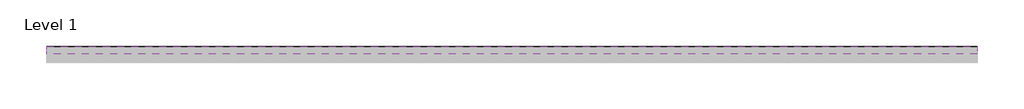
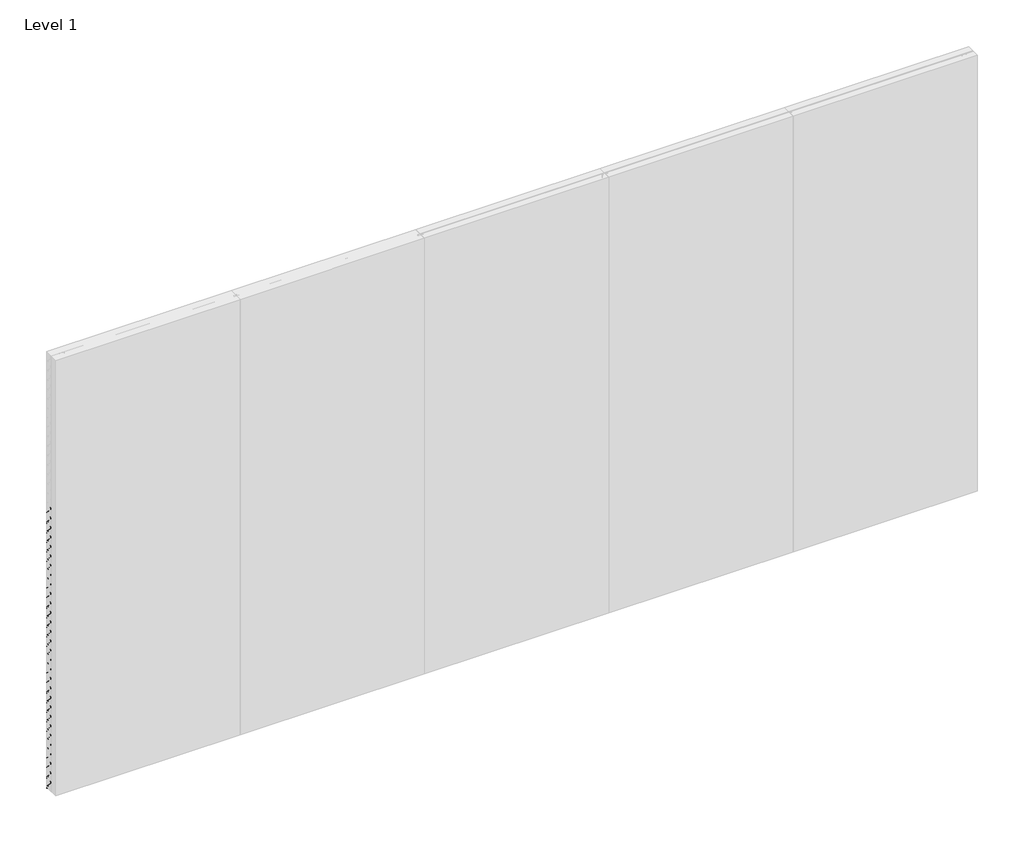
# One storey, part 7 of 7: 30 proxies.
"""IFC4 building model written with IfcOpenShell, lengths in millimetres."""

import ifcopenshell
import ifcopenshell.guid

model = None  # the IFC model being written
_history = None  # IfcOwnerHistory: only IFC2X3 demands one
_inside = {}  # id of a spatial element -> (the spatial element, [elements in it])
_under = {}  # id of a project, library or spatial element -> (it, [spatial elements below it])
_declared = {}  # id of a project -> (the project, [libraries it declares])
_typed = {}  # id of a type object -> (the type object, [elements of that type])
_made_of = {}  # id of a material, layer set ... -> (it, [elements and type objects made of it])


def new_model(schema):
    """Start an empty IFC model of exactly this schema.

    Asked for "IFC4X3", IfcOpenShell would pick the latest addendum, in which some entities
    have other attributes; the version numbers below select the first issue.
    IFC2X3 requires an IfcOwnerHistory on every rooted entity: one is made here for all.
    """
    global model, _history
    if schema == "IFC4X3":
        model = ifcopenshell.file(schema_version=(4, 3, 0, 0))
    else:
        model = ifcopenshell.file(schema=schema)
    _inside.clear()
    _under.clear()
    _declared.clear()
    _typed.clear()
    _made_of.clear()
    _history = None
    if model.schema == "IFC2X3":
        org = make("IfcOrganization", Name="unknown")
        user = make(
            "IfcPersonAndOrganization",
            ThePerson=make("IfcPerson", FamilyName="unknown"),
            TheOrganization=org,
        )
        app = make(
            "IfcApplication",
            ApplicationDeveloper=org,
            Version="unknown",
            ApplicationFullName="unknown",
            ApplicationIdentifier="unknown",
        )
        _history = make(
            "IfcOwnerHistory",
            OwningUser=user,
            OwningApplication=app,
            ChangeAction="ADDED",
            CreationDate=0,
        )
    return model


def make(cls, **values):
    """One entity of the class cls with the attributes given. An attribute that is None is left unset."""
    return model.create_entity(
        cls, **{name: value for name, value in values.items() if value is not None}
    )


def rooted(cls, **values):
    """An entity with a GlobalId (a new one), such as an element, a storey or a relation."""
    return make(cls, GlobalId=ifcopenshell.guid.new(), OwnerHistory=_history, **values)


def si_unit(unit_type, name, prefix=None):
    """IfcSIUnit, for example si_unit("LENGTHUNIT", "METRE", prefix="MILLI")."""
    return make("IfcSIUnit", UnitType=unit_type, Prefix=prefix, Name=name)


def assignment(units):
    """IfcUnitAssignment: the units of a project."""
    return None if units is None else make("IfcUnitAssignment", Units=units)


def point(xyz):
    """IfcCartesianPoint."""
    return None if xyz is None else make("IfcCartesianPoint", Coordinates=xyz)


def direction(xyz):
    """IfcDirection."""
    return None if xyz is None else make("IfcDirection", DirectionRatios=xyz)


def frame(location, z_axis=None, x_axis=None):
    """IfcAxis2Placement3D, a coordinate frame: its origin and axes. An axis left out is left unset."""
    return make(
        "IfcAxis2Placement3D",
        Location=point(location),
        Axis=direction(z_axis),
        RefDirection=direction(x_axis),
    )


def frame_2d(location, x_axis=None):
    """IfcAxis2Placement2D, a coordinate frame in the plane: its origin and x axis."""
    return make(
        "IfcAxis2Placement2D", Location=point(location), RefDirection=direction(x_axis)
    )


def origin():
    """The frame at (0, 0, 0) with its axes left unset."""
    return frame((0.0, 0.0, 0.0))


def place(relative_to, where):
    """IfcLocalPlacement: puts the frame where relative to a parent placement (None: the world)."""
    return make(
        "IfcLocalPlacement", PlacementRelTo=relative_to, RelativePlacement=where
    )


def context(
    kind, dimensions, precision=None, world=None, true_north=None, identifier=None
):
    """IfcGeometricRepresentationContext, for example the 3D "Model" context."""
    return make(
        "IfcGeometricRepresentationContext",
        ContextIdentifier=identifier,
        ContextType=kind,
        CoordinateSpaceDimension=dimensions,
        Precision=precision,
        WorldCoordinateSystem=world,
        TrueNorth=true_north,
    )


def project(units=None, contexts=None):
    """IfcProject with its units and contexts."""
    return rooted(
        "IfcProject",
        Name="project",
        RepresentationContexts=contexts,
        UnitsInContext=assignment(units),
    )


def spatial(cls, under=None, at=None, **own):
    """A site, building, storey or space (cls), placed at a placement, below another one or the project."""
    s = rooted(cls, ObjectPlacement=at, **own)
    if under is not None:
        _under.setdefault(under.id(), (under, []))[1].append(s)
    return s


def polyline(points):
    """IfcPolyline through the points."""
    return make("IfcPolyline", Points=[point(p) for p in points])


def circle_curve(where, radius):
    """IfcCircle in the frame where."""
    return make("IfcCircle", Position=where, Radius=radius)


def trimmed(basis, trim1, trim2, sense, master):
    """IfcTrimmedCurve: the piece of a basis curve between two trims."""
    return make(
        "IfcTrimmedCurve",
        BasisCurve=basis,
        Trim1=trim1,
        Trim2=trim2,
        SenseAgreement=sense,
        MasterRepresentation=master,
    )


def segment(curve, same_sense, transition):
    """IfcCompositeCurveSegment."""
    return make(
        "IfcCompositeCurveSegment",
        Transition=transition,
        SameSense=same_sense,
        ParentCurve=curve,
    )


def composite_curve(segments, self_intersect=None):
    """IfcCompositeCurve: segments joined end to end."""
    return make("IfcCompositeCurve", Segments=segments, SelfIntersect=self_intersect)


def outline(outer, holes=None, kind="AREA"):
    """IfcArbitraryClosedProfileDef: a profile drawn as a closed curve; with holes, ...WithVoids."""
    if holes is None:
        return make("IfcArbitraryClosedProfileDef", ProfileType=kind, OuterCurve=outer)
    return make(
        "IfcArbitraryProfileDefWithVoids",
        ProfileType=kind,
        OuterCurve=outer,
        InnerCurves=holes,
    )


def extrude(swept, where, along, depth):
    """IfcExtrudedAreaSolid: the profile swept, set in the frame where, extruded along a direction by depth."""
    return make(
        "IfcExtrudedAreaSolid",
        SweptArea=swept,
        Position=where,
        ExtrudedDirection=direction(along),
        Depth=depth,
    )


def shape(context_of_items, identifier, shape_type, items):
    """IfcShapeRepresentation: the items that make up one representation, for example the "Body"."""
    return make(
        "IfcShapeRepresentation",
        ContextOfItems=context_of_items,
        RepresentationIdentifier=identifier,
        RepresentationType=shape_type,
        Items=items,
    )


def made_of(thing, what):
    """Note that an element or type object is made of a material, layer set ...; save() writes the relation."""
    if what is not None:
        _made_of.setdefault(what.id(), (what, []))[1].append(thing)
    return thing


def element(
    cls,
    number,
    at=None,
    inside=None,
    cuts=None,
    type_object=None,
    material=None,
    context=None,
    identifier="Body",
    shape_type=None,
    held_by="IfcProductDefinitionShape",
    body=None,
    shapes=None,
    **own,
):
    """One element of the class cls, such as IfcWall. Its Tag is "e" and its number.

    at: its placement. inside: the storey or other place that contains it. cuts: it is an
    opening in that element (IfcRelVoidsElement). A single representation is given by context,
    identifier, shape_type and body (its items); several are given by shapes. held_by: the class
    of the entity that holds the representations. save() writes the other relations.
    """
    e = rooted(cls, Tag="e%d" % number, ObjectPlacement=at, **own)
    if body is not None:
        shapes = [shape(context, identifier, shape_type, body)]
    if shapes is not None:
        e.Representation = make(held_by, Representations=shapes)
    if inside is not None:
        _inside.setdefault(inside.id(), (inside, []))[1].append(e)
    if cuts is not None:
        rooted(
            "IfcRelVoidsElement", RelatingBuildingElement=cuts, RelatedOpeningElement=e
        )
    if type_object is not None:
        _typed.setdefault(type_object.id(), (type_object, []))[1].append(e)
    return made_of(e, material)


def aggregate(whole, parts):
    """IfcRelAggregates: a whole, such as a stair, and the parts it consists of."""
    return rooted("IfcRelAggregates", RelatingObject=whole, RelatedObjects=parts)


def save(model, path):
    """Write the relations noted so far, then the file.

    IfcRelAggregates (storeys below a building ...), IfcRelContainedInSpatialStructure (elements
    in a storey), IfcRelDefinesByType, IfcRelAssociatesMaterial and IfcRelDeclares: one each for
    every whole, place, type object, material and project.
    """
    for whole, parts in _under.values():
        aggregate(whole, parts)
    for where, things in _inside.values():
        rooted(
            "IfcRelContainedInSpatialStructure",
            RelatedElements=things,
            RelatingStructure=where,
        )
    for kind, things in _typed.values():
        rooted("IfcRelDefinesByType", RelatedObjects=things, RelatingType=kind)
    for what, things in _made_of.values():
        rooted("IfcRelAssociatesMaterial", RelatedObjects=things, RelatingMaterial=what)
    for by, libraries in _declared.values():
        rooted("IfcRelDeclares", RelatingContext=by, RelatedDefinitions=libraries)
    model.write(path)


model = new_model("IFC4")

# Units and contexts
model_context = context("Model", 3, world=origin())
ifc_project = project(units=[si_unit("LENGTHUNIT", "METRE", prefix="MILLI")], contexts=[model_context])

# Site, building, storey
site = spatial("IfcSite", under=ifc_project)
building = spatial("IfcBuilding", under=site)
storey = spatial("IfcBuildingStorey", under=building, Name="Level 1", Elevation=0.0)

# Proxies
placement = place(None, origin())
element("IfcBuildingElementProxy", 1, Name="Wall Sweeps", at=placement, inside=storey, context=model_context, shape_type="SweptSolid", body=[
    extrude(outline(composite_curve([segment(polyline([(4007.5, 1936.0025181), (4007.5, 1943.9509429), (4005.5, 1943.9509429), (4005.5, 1941.5421319), (4004.0, 1941.5421319), (4004.0, 1948.6499999), (4005.5, 1948.6499999), (4005.5, 1945.4509429), (4007.5, 1945.4509429), (4007.5, 1948.7999999), (4007.8215391, 1950.0), (4012.2999946, 1950.0), (4012.2999946, 1946.8499997), (4010.9164265, 1948.4999997), (4009.0, 1948.4999997), (4009.0, 1936.6085574), (4054.0, 1890.0096933), (4054.0, 1874.0), (4052.5, 1876.6798), (4052.5, 1879.1208496), (4051.5, 1879.1208496), (4051.5, 1880.6208496), (4052.5, 1880.6208496), (4052.5, 1889.4036539), (4038.7911893, 1903.599543), (4036.5624401, 1901.3707939), (4037.1260451, 1900.8071888)]), True, "CONTINUOUS"), segment(trimmed(circle_curve(frame_2d((4036.7724917, 1900.4536354)), 0.5), [point((4037.1260451, 1900.8071888))], [point((4036.6430822, 1899.9706725))], False, "CARTESIAN"), True, "CONTINUOUS"), segment(polyline([(4036.6430822, 1899.9706725), (4033.8022083, 1900.7318824), (4037.749043, 1904.6787171), (4007.5, 1936.0025181)]), True, "CONTINUOUS")], self_intersect=False)), frame((0.0, 0.0, 0.0), z_axis=(1.0, 0.0, 0.0), x_axis=(0.0, 1.0, 0.0)), (0.0, 0.0, 1.0), 6000.0),
])
element("IfcBuildingElementProxy", 2, Name="Wall Sweeps", at=placement, inside=storey, context=model_context, shape_type="SweptSolid", body=[
    extrude(outline(composite_curve([segment(polyline([(4007.5, 1871.0025181), (4007.5, 1878.9509429), (4005.5, 1878.9509429), (4005.5, 1876.5421319), (4004.0, 1876.5421319), (4004.0, 1883.6499999), (4005.5, 1883.6499999), (4005.5, 1880.4509429), (4007.5, 1880.4509429), (4007.5, 1883.7999999), (4007.8215391, 1885.0), (4012.2999946, 1885.0), (4012.2999946, 1881.8499997), (4010.9164265, 1883.4999997), (4009.0, 1883.4999997), (4009.0, 1871.6085574), (4054.0, 1825.0096933), (4054.0, 1809.0), (4052.5, 1811.6798), (4052.5, 1814.1208496), (4051.5, 1814.1208496), (4051.5, 1815.6208496), (4052.5, 1815.6208496), (4052.5, 1824.4036539), (4038.7911893, 1838.599543), (4036.5624401, 1836.3707939), (4037.1260451, 1835.8071888)]), True, "CONTINUOUS"), segment(trimmed(circle_curve(frame_2d((4036.7724917, 1835.4536354)), 0.5), [point((4037.1260451, 1835.8071888))], [point((4036.6430822, 1834.9706725))], False, "CARTESIAN"), True, "CONTINUOUS"), segment(polyline([(4036.6430822, 1834.9706725), (4033.8022083, 1835.7318824), (4037.749043, 1839.6787171), (4007.5, 1871.0025181)]), True, "CONTINUOUS")], self_intersect=False)), frame((0.0, 0.0, 0.0), z_axis=(1.0, 0.0, 0.0), x_axis=(0.0, 1.0, 0.0)), (0.0, 0.0, 1.0), 6000.0),
])
element("IfcBuildingElementProxy", 3, Name="Wall Sweeps", at=placement, inside=storey, context=model_context, shape_type="SweptSolid", body=[
    extrude(outline(composite_curve([segment(polyline([(4007.5, 1806.0025181), (4007.5, 1813.9509429), (4005.5, 1813.9509429), (4005.5, 1811.5421319), (4004.0, 1811.5421319), (4004.0, 1818.6499999), (4005.5, 1818.6499999), (4005.5, 1815.4509429), (4007.5, 1815.4509429), (4007.5, 1818.7999999), (4007.8215391, 1820.0), (4012.2999946, 1820.0), (4012.2999946, 1816.8499997), (4010.9164265, 1818.4999997), (4009.0, 1818.4999997), (4009.0, 1806.6085574), (4054.0, 1760.0096933), (4054.0, 1744.0), (4052.5, 1746.6798), (4052.5, 1749.1208496), (4051.5, 1749.1208496), (4051.5, 1750.6208496), (4052.5, 1750.6208496), (4052.5, 1759.4036539), (4038.7911893, 1773.599543), (4036.5624401, 1771.3707939), (4037.1260451, 1770.8071888)]), True, "CONTINUOUS"), segment(trimmed(circle_curve(frame_2d((4036.7724917, 1770.4536354)), 0.5), [point((4037.1260451, 1770.8071888))], [point((4036.6430822, 1769.9706725))], False, "CARTESIAN"), True, "CONTINUOUS"), segment(polyline([(4036.6430822, 1769.9706725), (4033.8022083, 1770.7318824), (4037.749043, 1774.6787171), (4007.5, 1806.0025181)]), True, "CONTINUOUS")], self_intersect=False)), frame((0.0, 0.0, 0.0), z_axis=(1.0, 0.0, 0.0), x_axis=(0.0, 1.0, 0.0)), (0.0, 0.0, 1.0), 6000.0),
])
element("IfcBuildingElementProxy", 4, Name="Wall Sweeps", at=placement, inside=storey, context=model_context, shape_type="SweptSolid", body=[
    extrude(outline(composite_curve([segment(polyline([(4007.5, 1741.0025181), (4007.5, 1748.9509429), (4005.5, 1748.9509429), (4005.5, 1746.5421319), (4004.0, 1746.5421319), (4004.0, 1753.6499999), (4005.5, 1753.6499999), (4005.5, 1750.4509429), (4007.5, 1750.4509429), (4007.5, 1753.7999999), (4007.8215391, 1755.0), (4012.2999946, 1755.0), (4012.2999946, 1751.8499997), (4010.9164265, 1753.4999997), (4009.0, 1753.4999997), (4009.0, 1741.6085574), (4054.0, 1695.0096933), (4054.0, 1679.0), (4052.5, 1681.6798), (4052.5, 1684.1208496), (4051.5, 1684.1208496), (4051.5, 1685.6208496), (4052.5, 1685.6208496), (4052.5, 1694.4036539), (4038.7911893, 1708.599543), (4036.5624401, 1706.3707939), (4037.1260451, 1705.8071888)]), True, "CONTINUOUS"), segment(trimmed(circle_curve(frame_2d((4036.7724917, 1705.4536354)), 0.5), [point((4037.1260451, 1705.8071888))], [point((4036.6430822, 1704.9706725))], False, "CARTESIAN"), True, "CONTINUOUS"), segment(polyline([(4036.6430822, 1704.9706725), (4033.8022083, 1705.7318824), (4037.749043, 1709.6787171), (4007.5, 1741.0025181)]), True, "CONTINUOUS")], self_intersect=False)), frame((0.0, 0.0, 0.0), z_axis=(1.0, 0.0, 0.0), x_axis=(0.0, 1.0, 0.0)), (0.0, 0.0, 1.0), 6000.0),
])
element("IfcBuildingElementProxy", 5, Name="Wall Sweeps", at=placement, inside=storey, context=model_context, shape_type="SweptSolid", body=[
    extrude(outline(composite_curve([segment(polyline([(4007.5, 1676.0025181), (4007.5, 1683.9509429), (4005.5, 1683.9509429), (4005.5, 1681.5421319), (4004.0, 1681.5421319), (4004.0, 1688.6499999), (4005.5, 1688.6499999), (4005.5, 1685.4509429), (4007.5, 1685.4509429), (4007.5, 1688.7999999), (4007.8215391, 1690.0), (4012.2999946, 1690.0), (4012.2999946, 1686.8499997), (4010.9164265, 1688.4999997), (4009.0, 1688.4999997), (4009.0, 1676.6085574), (4054.0, 1630.0096933), (4054.0, 1614.0), (4052.5, 1616.6798), (4052.5, 1619.1208496), (4051.5, 1619.1208496), (4051.5, 1620.6208496), (4052.5, 1620.6208496), (4052.5, 1629.4036539), (4038.7911893, 1643.599543), (4036.5624401, 1641.3707939), (4037.1260451, 1640.8071888)]), True, "CONTINUOUS"), segment(trimmed(circle_curve(frame_2d((4036.7724917, 1640.4536354)), 0.5), [point((4037.1260451, 1640.8071888))], [point((4036.6430822, 1639.9706725))], False, "CARTESIAN"), True, "CONTINUOUS"), segment(polyline([(4036.6430822, 1639.9706725), (4033.8022083, 1640.7318824), (4037.749043, 1644.6787171), (4007.5, 1676.0025181)]), True, "CONTINUOUS")], self_intersect=False)), frame((0.0, 0.0, 0.0), z_axis=(1.0, 0.0, 0.0), x_axis=(0.0, 1.0, 0.0)), (0.0, 0.0, 1.0), 6000.0),
])
element("IfcBuildingElementProxy", 6, Name="Wall Sweeps", at=placement, inside=storey, context=model_context, shape_type="SweptSolid", body=[
    extrude(outline(composite_curve([segment(polyline([(4007.5, 1611.0025181), (4007.5, 1618.9509429), (4005.5, 1618.9509429), (4005.5, 1616.5421319), (4004.0, 1616.5421319), (4004.0, 1623.6499999), (4005.5, 1623.6499999), (4005.5, 1620.4509429), (4007.5, 1620.4509429), (4007.5, 1623.7999999), (4007.8215391, 1625.0), (4012.2999946, 1625.0), (4012.2999946, 1621.8499997), (4010.9164265, 1623.4999997), (4009.0, 1623.4999997), (4009.0, 1611.6085574), (4054.0, 1565.0096933), (4054.0, 1549.0), (4052.5, 1551.6798), (4052.5, 1554.1208496), (4051.5, 1554.1208496), (4051.5, 1555.6208496), (4052.5, 1555.6208496), (4052.5, 1564.4036539), (4038.7911893, 1578.599543), (4036.5624401, 1576.3707939), (4037.1260451, 1575.8071888)]), True, "CONTINUOUS"), segment(trimmed(circle_curve(frame_2d((4036.7724917, 1575.4536354)), 0.5), [point((4037.1260451, 1575.8071888))], [point((4036.6430822, 1574.9706725))], False, "CARTESIAN"), True, "CONTINUOUS"), segment(polyline([(4036.6430822, 1574.9706725), (4033.8022083, 1575.7318824), (4037.749043, 1579.6787171), (4007.5, 1611.0025181)]), True, "CONTINUOUS")], self_intersect=False)), frame((0.0, 0.0, 0.0), z_axis=(1.0, 0.0, 0.0), x_axis=(0.0, 1.0, 0.0)), (0.0, 0.0, 1.0), 6000.0),
])
element("IfcBuildingElementProxy", 7, Name="Wall Sweeps", at=placement, inside=storey, context=model_context, shape_type="SweptSolid", body=[
    extrude(outline(composite_curve([segment(polyline([(4007.5, 1546.0025181), (4007.5, 1553.9509429), (4005.5, 1553.9509429), (4005.5, 1551.5421319), (4004.0, 1551.5421319), (4004.0, 1558.6499999), (4005.5, 1558.6499999), (4005.5, 1555.4509429), (4007.5, 1555.4509429), (4007.5, 1558.7999999), (4007.8215391, 1560.0), (4012.2999946, 1560.0), (4012.2999946, 1556.8499997), (4010.9164265, 1558.4999997), (4009.0, 1558.4999997), (4009.0, 1546.6085574), (4054.0, 1500.0096933), (4054.0, 1484.0), (4052.5, 1486.6798), (4052.5, 1489.1208496), (4051.5, 1489.1208496), (4051.5, 1490.6208496), (4052.5, 1490.6208496), (4052.5, 1499.4036539), (4038.7911893, 1513.599543), (4036.5624401, 1511.3707939), (4037.1260451, 1510.8071888)]), True, "CONTINUOUS"), segment(trimmed(circle_curve(frame_2d((4036.7724917, 1510.4536354)), 0.5), [point((4037.1260451, 1510.8071888))], [point((4036.6430822, 1509.9706725))], False, "CARTESIAN"), True, "CONTINUOUS"), segment(polyline([(4036.6430822, 1509.9706725), (4033.8022083, 1510.7318824), (4037.749043, 1514.6787171), (4007.5, 1546.0025181)]), True, "CONTINUOUS")], self_intersect=False)), frame((0.0, 0.0, 0.0), z_axis=(1.0, 0.0, 0.0), x_axis=(0.0, 1.0, 0.0)), (0.0, 0.0, 1.0), 6000.0),
])
element("IfcBuildingElementProxy", 8, Name="Wall Sweeps", at=placement, inside=storey, context=model_context, shape_type="SweptSolid", body=[
    extrude(outline(composite_curve([segment(polyline([(4007.5, 1481.0025181), (4007.5, 1488.9509429), (4005.5, 1488.9509429), (4005.5, 1486.5421319), (4004.0, 1486.5421319), (4004.0, 1493.6499999), (4005.5, 1493.6499999), (4005.5, 1490.4509429), (4007.5, 1490.4509429), (4007.5, 1493.7999999), (4007.8215391, 1495.0), (4012.2999946, 1495.0), (4012.2999946, 1491.8499997), (4010.9164265, 1493.4999997), (4009.0, 1493.4999997), (4009.0, 1481.6085574), (4054.0, 1435.0096933), (4054.0, 1419.0), (4052.5, 1421.6798), (4052.5, 1424.1208496), (4051.5, 1424.1208496), (4051.5, 1425.6208496), (4052.5, 1425.6208496), (4052.5, 1434.4036539), (4038.7911893, 1448.599543), (4036.5624401, 1446.3707939), (4037.1260451, 1445.8071888)]), True, "CONTINUOUS"), segment(trimmed(circle_curve(frame_2d((4036.7724917, 1445.4536354)), 0.5), [point((4037.1260451, 1445.8071888))], [point((4036.6430822, 1444.9706725))], False, "CARTESIAN"), True, "CONTINUOUS"), segment(polyline([(4036.6430822, 1444.9706725), (4033.8022083, 1445.7318824), (4037.749043, 1449.6787171), (4007.5, 1481.0025181)]), True, "CONTINUOUS")], self_intersect=False)), frame((0.0, 0.0, 0.0), z_axis=(1.0, 0.0, 0.0), x_axis=(0.0, 1.0, 0.0)), (0.0, 0.0, 1.0), 6000.0),
])
element("IfcBuildingElementProxy", 9, Name="Wall Sweeps", at=placement, inside=storey, context=model_context, shape_type="SweptSolid", body=[
    extrude(outline(composite_curve([segment(polyline([(4007.5, 1416.0025181), (4007.5, 1423.9509429), (4005.5, 1423.9509429), (4005.5, 1421.5421319), (4004.0, 1421.5421319), (4004.0, 1428.6499999), (4005.5, 1428.6499999), (4005.5, 1425.4509429), (4007.5, 1425.4509429), (4007.5, 1428.7999999), (4007.8215391, 1430.0), (4012.2999946, 1430.0), (4012.2999946, 1426.8499997), (4010.9164265, 1428.4999997), (4009.0, 1428.4999997), (4009.0, 1416.6085574), (4054.0, 1370.0096933), (4054.0, 1354.0), (4052.5, 1356.6798), (4052.5, 1359.1208496), (4051.5, 1359.1208496), (4051.5, 1360.6208496), (4052.5, 1360.6208496), (4052.5, 1369.4036539), (4038.7911893, 1383.599543), (4036.5624401, 1381.3707939), (4037.1260451, 1380.8071888)]), True, "CONTINUOUS"), segment(trimmed(circle_curve(frame_2d((4036.7724917, 1380.4536354)), 0.5), [point((4037.1260451, 1380.8071888))], [point((4036.6430822, 1379.9706725))], False, "CARTESIAN"), True, "CONTINUOUS"), segment(polyline([(4036.6430822, 1379.9706725), (4033.8022083, 1380.7318824), (4037.749043, 1384.6787171), (4007.5, 1416.0025181)]), True, "CONTINUOUS")], self_intersect=False)), frame((0.0, 0.0, 0.0), z_axis=(1.0, 0.0, 0.0), x_axis=(0.0, 1.0, 0.0)), (0.0, 0.0, 1.0), 6000.0),
])
element("IfcBuildingElementProxy", 10, Name="Wall Sweeps", at=placement, inside=storey, context=model_context, shape_type="SweptSolid", body=[
    extrude(outline(composite_curve([segment(polyline([(4007.5, 1351.0025181), (4007.5, 1358.9509429), (4005.5, 1358.9509429), (4005.5, 1356.5421319), (4004.0, 1356.5421319), (4004.0, 1363.6499999), (4005.5, 1363.6499999), (4005.5, 1360.4509429), (4007.5, 1360.4509429), (4007.5, 1363.7999999), (4007.8215391, 1365.0), (4012.2999946, 1365.0), (4012.2999946, 1361.8499997), (4010.9164265, 1363.4999997), (4009.0, 1363.4999997), (4009.0, 1351.6085574), (4054.0, 1305.0096933), (4054.0, 1289.0), (4052.5, 1291.6798), (4052.5, 1294.1208496), (4051.5, 1294.1208496), (4051.5, 1295.6208496), (4052.5, 1295.6208496), (4052.5, 1304.4036539), (4038.7911893, 1318.599543), (4036.5624401, 1316.3707939), (4037.1260451, 1315.8071888)]), True, "CONTINUOUS"), segment(trimmed(circle_curve(frame_2d((4036.7724917, 1315.4536354)), 0.5), [point((4037.1260451, 1315.8071888))], [point((4036.6430822, 1314.9706725))], False, "CARTESIAN"), True, "CONTINUOUS"), segment(polyline([(4036.6430822, 1314.9706725), (4033.8022083, 1315.7318824), (4037.749043, 1319.6787171), (4007.5, 1351.0025181)]), True, "CONTINUOUS")], self_intersect=False)), frame((0.0, 0.0, 0.0), z_axis=(1.0, 0.0, 0.0), x_axis=(0.0, 1.0, 0.0)), (0.0, 0.0, 1.0), 6000.0),
])
element("IfcBuildingElementProxy", 11, Name="Wall Sweeps", at=placement, inside=storey, context=model_context, shape_type="SweptSolid", body=[
    extrude(outline(composite_curve([segment(polyline([(4007.5, 1286.0025181), (4007.5, 1293.9509429), (4005.5, 1293.9509429), (4005.5, 1291.5421319), (4004.0, 1291.5421319), (4004.0, 1298.6499999), (4005.5, 1298.6499999), (4005.5, 1295.4509429), (4007.5, 1295.4509429), (4007.5, 1298.7999999), (4007.8215391, 1300.0), (4012.2999946, 1300.0), (4012.2999946, 1296.8499997), (4010.9164265, 1298.4999997), (4009.0, 1298.4999997), (4009.0, 1286.6085574), (4054.0, 1240.0096933), (4054.0, 1224.0), (4052.5, 1226.6798), (4052.5, 1229.1208496), (4051.5, 1229.1208496), (4051.5, 1230.6208496), (4052.5, 1230.6208496), (4052.5, 1239.4036539), (4038.7911893, 1253.599543), (4036.5624401, 1251.3707939), (4037.1260451, 1250.8071888)]), True, "CONTINUOUS"), segment(trimmed(circle_curve(frame_2d((4036.7724917, 1250.4536354)), 0.5), [point((4037.1260451, 1250.8071888))], [point((4036.6430822, 1249.9706725))], False, "CARTESIAN"), True, "CONTINUOUS"), segment(polyline([(4036.6430822, 1249.9706725), (4033.8022083, 1250.7318824), (4037.749043, 1254.6787171), (4007.5, 1286.0025181)]), True, "CONTINUOUS")], self_intersect=False)), frame((0.0, 0.0, 0.0), z_axis=(1.0, 0.0, 0.0), x_axis=(0.0, 1.0, 0.0)), (0.0, 0.0, 1.0), 6000.0),
])
element("IfcBuildingElementProxy", 12, Name="Wall Sweeps", at=placement, inside=storey, context=model_context, shape_type="SweptSolid", body=[
    extrude(outline(composite_curve([segment(polyline([(4007.5, 1221.0025181), (4007.5, 1228.9509429), (4005.5, 1228.9509429), (4005.5, 1226.5421319), (4004.0, 1226.5421319), (4004.0, 1233.6499999), (4005.5, 1233.6499999), (4005.5, 1230.4509429), (4007.5, 1230.4509429), (4007.5, 1233.7999999), (4007.8215391, 1235.0), (4012.2999946, 1235.0), (4012.2999946, 1231.8499997), (4010.9164265, 1233.4999997), (4009.0, 1233.4999997), (4009.0, 1221.6085574), (4054.0, 1175.0096933), (4054.0, 1159.0), (4052.5, 1161.6798), (4052.5, 1164.1208496), (4051.5, 1164.1208496), (4051.5, 1165.6208496), (4052.5, 1165.6208496), (4052.5, 1174.4036539), (4038.7911893, 1188.599543), (4036.5624401, 1186.3707939), (4037.1260451, 1185.8071888)]), True, "CONTINUOUS"), segment(trimmed(circle_curve(frame_2d((4036.7724917, 1185.4536354)), 0.5), [point((4037.1260451, 1185.8071888))], [point((4036.6430822, 1184.9706725))], False, "CARTESIAN"), True, "CONTINUOUS"), segment(polyline([(4036.6430822, 1184.9706725), (4033.8022083, 1185.7318824), (4037.749043, 1189.6787171), (4007.5, 1221.0025181)]), True, "CONTINUOUS")], self_intersect=False)), frame((0.0, 0.0, 0.0), z_axis=(1.0, 0.0, 0.0), x_axis=(0.0, 1.0, 0.0)), (0.0, 0.0, 1.0), 6000.0),
])
element("IfcBuildingElementProxy", 13, Name="Wall Sweeps", at=placement, inside=storey, context=model_context, shape_type="SweptSolid", body=[
    extrude(outline(composite_curve([segment(polyline([(4007.5, 1156.0025181), (4007.5, 1163.9509429), (4005.5, 1163.9509429), (4005.5, 1161.5421319), (4004.0, 1161.5421319), (4004.0, 1168.6499999), (4005.5, 1168.6499999), (4005.5, 1165.4509429), (4007.5, 1165.4509429), (4007.5, 1168.7999999), (4007.8215391, 1170.0), (4012.2999946, 1170.0), (4012.2999946, 1166.8499997), (4010.9164265, 1168.4999997), (4009.0, 1168.4999997), (4009.0, 1156.6085574), (4054.0, 1110.0096933), (4054.0, 1094.0), (4052.5, 1096.6798), (4052.5, 1099.1208496), (4051.5, 1099.1208496), (4051.5, 1100.6208496), (4052.5, 1100.6208496), (4052.5, 1109.4036539), (4038.7911893, 1123.599543), (4036.5624401, 1121.3707939), (4037.1260451, 1120.8071888)]), True, "CONTINUOUS"), segment(trimmed(circle_curve(frame_2d((4036.7724917, 1120.4536354)), 0.5), [point((4037.1260451, 1120.8071888))], [point((4036.6430822, 1119.9706725))], False, "CARTESIAN"), True, "CONTINUOUS"), segment(polyline([(4036.6430822, 1119.9706725), (4033.8022083, 1120.7318824), (4037.749043, 1124.6787171), (4007.5, 1156.0025181)]), True, "CONTINUOUS")], self_intersect=False)), frame((0.0, 0.0, 0.0), z_axis=(1.0, 0.0, 0.0), x_axis=(0.0, 1.0, 0.0)), (0.0, 0.0, 1.0), 6000.0),
])
element("IfcBuildingElementProxy", 14, Name="Wall Sweeps", at=placement, inside=storey, context=model_context, shape_type="SweptSolid", body=[
    extrude(outline(composite_curve([segment(polyline([(4007.5, 1091.0025181), (4007.5, 1098.9509429), (4005.5, 1098.9509429), (4005.5, 1096.5421319), (4004.0, 1096.5421319), (4004.0, 1103.6499999), (4005.5, 1103.6499999), (4005.5, 1100.4509429), (4007.5, 1100.4509429), (4007.5, 1103.7999999), (4007.8215391, 1105.0), (4012.2999946, 1105.0), (4012.2999946, 1101.8499997), (4010.9164265, 1103.4999997), (4009.0, 1103.4999997), (4009.0, 1091.6085574), (4054.0, 1045.0096933), (4054.0, 1029.0), (4052.5, 1031.6798), (4052.5, 1034.1208496), (4051.5, 1034.1208496), (4051.5, 1035.6208496), (4052.5, 1035.6208496), (4052.5, 1044.4036539), (4038.7911893, 1058.599543), (4036.5624401, 1056.3707939), (4037.1260451, 1055.8071888)]), True, "CONTINUOUS"), segment(trimmed(circle_curve(frame_2d((4036.7724917, 1055.4536354)), 0.5), [point((4037.1260451, 1055.8071888))], [point((4036.6430822, 1054.9706725))], False, "CARTESIAN"), True, "CONTINUOUS"), segment(polyline([(4036.6430822, 1054.9706725), (4033.8022083, 1055.7318824), (4037.749043, 1059.6787171), (4007.5, 1091.0025181)]), True, "CONTINUOUS")], self_intersect=False)), frame((0.0, 0.0, 0.0), z_axis=(1.0, 0.0, 0.0), x_axis=(0.0, 1.0, 0.0)), (0.0, 0.0, 1.0), 6000.0),
])
element("IfcBuildingElementProxy", 15, Name="Wall Sweeps", at=placement, inside=storey, context=model_context, shape_type="SweptSolid", body=[
    extrude(outline(composite_curve([segment(polyline([(4007.5, 1026.0025181), (4007.5, 1033.9509429), (4005.5, 1033.9509429), (4005.5, 1031.5421319), (4004.0, 1031.5421319), (4004.0, 1038.6499999), (4005.5, 1038.6499999), (4005.5, 1035.4509429), (4007.5, 1035.4509429), (4007.5, 1038.7999999), (4007.8215391, 1040.0), (4012.2999946, 1040.0), (4012.2999946, 1036.8499997), (4010.9164265, 1038.4999997), (4009.0, 1038.4999997), (4009.0, 1026.6085574), (4054.0, 980.0096933), (4054.0, 964.0), (4052.5, 966.6798), (4052.5, 969.1208496), (4051.5, 969.1208496), (4051.5, 970.6208496), (4052.5, 970.6208496), (4052.5, 979.4036539), (4038.7911893, 993.599543), (4036.5624401, 991.3707939), (4037.1260451, 990.8071888)]), True, "CONTINUOUS"), segment(trimmed(circle_curve(frame_2d((4036.7724917, 990.4536354)), 0.5), [point((4037.1260451, 990.8071888))], [point((4036.6430822, 989.9706725))], False, "CARTESIAN"), True, "CONTINUOUS"), segment(polyline([(4036.6430822, 989.9706725), (4033.8022083, 990.7318824), (4037.749043, 994.6787171), (4007.5, 1026.0025181)]), True, "CONTINUOUS")], self_intersect=False)), frame((0.0, 0.0, 0.0), z_axis=(1.0, 0.0, 0.0), x_axis=(0.0, 1.0, 0.0)), (0.0, 0.0, 1.0), 6000.0),
])
element("IfcBuildingElementProxy", 16, Name="Wall Sweeps", at=placement, inside=storey, context=model_context, shape_type="SweptSolid", body=[
    extrude(outline(composite_curve([segment(polyline([(4007.5, 961.0025181), (4007.5, 968.9509429), (4005.5, 968.9509429), (4005.5, 966.5421319), (4004.0, 966.5421319), (4004.0, 973.6499999), (4005.5, 973.6499999), (4005.5, 970.4509429), (4007.5, 970.4509429), (4007.5, 973.7999999), (4007.8215391, 975.0), (4012.2999946, 975.0), (4012.2999946, 971.8499997), (4010.9164265, 973.4999997), (4009.0, 973.4999997), (4009.0, 961.6085574), (4054.0, 915.0096933), (4054.0, 899.0), (4052.5, 901.6798), (4052.5, 904.1208496), (4051.5, 904.1208496), (4051.5, 905.6208496), (4052.5, 905.6208496), (4052.5, 914.4036539), (4038.7911893, 928.599543), (4036.5624401, 926.3707939), (4037.1260451, 925.8071888)]), True, "CONTINUOUS"), segment(trimmed(circle_curve(frame_2d((4036.7724917, 925.4536354)), 0.5), [point((4037.1260451, 925.8071888))], [point((4036.6430822, 924.9706725))], False, "CARTESIAN"), True, "CONTINUOUS"), segment(polyline([(4036.6430822, 924.9706725), (4033.8022083, 925.7318824), (4037.749043, 929.6787171), (4007.5, 961.0025181)]), True, "CONTINUOUS")], self_intersect=False)), frame((0.0, 0.0, 0.0), z_axis=(1.0, 0.0, 0.0), x_axis=(0.0, 1.0, 0.0)), (0.0, 0.0, 1.0), 6000.0),
])
element("IfcBuildingElementProxy", 17, Name="Wall Sweeps", at=placement, inside=storey, context=model_context, shape_type="SweptSolid", body=[
    extrude(outline(composite_curve([segment(polyline([(4007.5, 896.0025181), (4007.5, 903.9509429), (4005.5, 903.9509429), (4005.5, 901.5421319), (4004.0, 901.5421319), (4004.0, 908.6499999), (4005.5, 908.6499999), (4005.5, 905.4509429), (4007.5, 905.4509429), (4007.5, 908.7999999), (4007.8215391, 910.0), (4012.2999946, 910.0), (4012.2999946, 906.8499997), (4010.9164265, 908.4999997), (4009.0, 908.4999997), (4009.0, 896.6085574), (4054.0, 850.0096933), (4054.0, 834.0), (4052.5, 836.6798), (4052.5, 839.1208496), (4051.5, 839.1208496), (4051.5, 840.6208496), (4052.5, 840.6208496), (4052.5, 849.4036539), (4038.7911893, 863.599543), (4036.5624401, 861.3707939), (4037.1260451, 860.8071888)]), True, "CONTINUOUS"), segment(trimmed(circle_curve(frame_2d((4036.7724917, 860.4536354)), 0.5), [point((4037.1260451, 860.8071888))], [point((4036.6430822, 859.9706725))], False, "CARTESIAN"), True, "CONTINUOUS"), segment(polyline([(4036.6430822, 859.9706725), (4033.8022083, 860.7318824), (4037.749043, 864.6787171), (4007.5, 896.0025181)]), True, "CONTINUOUS")], self_intersect=False)), frame((0.0, 0.0, 0.0), z_axis=(1.0, 0.0, 0.0), x_axis=(0.0, 1.0, 0.0)), (0.0, 0.0, 1.0), 6000.0),
])
element("IfcBuildingElementProxy", 18, Name="Wall Sweeps", at=placement, inside=storey, context=model_context, shape_type="SweptSolid", body=[
    extrude(outline(composite_curve([segment(polyline([(4007.5, 831.0025181), (4007.5, 838.9509429), (4005.5, 838.9509429), (4005.5, 836.5421319), (4004.0, 836.5421319), (4004.0, 843.6499999), (4005.5, 843.6499999), (4005.5, 840.4509429), (4007.5, 840.4509429), (4007.5, 843.7999999), (4007.8215391, 845.0), (4012.2999946, 845.0), (4012.2999946, 841.8499997), (4010.9164265, 843.4999997), (4009.0, 843.4999997), (4009.0, 831.6085574), (4054.0, 785.0096933), (4054.0, 769.0), (4052.5, 771.6798), (4052.5, 774.1208496), (4051.5, 774.1208496), (4051.5, 775.6208496), (4052.5, 775.6208496), (4052.5, 784.4036539), (4038.7911893, 798.599543), (4036.5624401, 796.3707939), (4037.1260451, 795.8071888)]), True, "CONTINUOUS"), segment(trimmed(circle_curve(frame_2d((4036.7724917, 795.4536354)), 0.5), [point((4037.1260451, 795.8071888))], [point((4036.6430822, 794.9706725))], False, "CARTESIAN"), True, "CONTINUOUS"), segment(polyline([(4036.6430822, 794.9706725), (4033.8022083, 795.7318824), (4037.749043, 799.6787171), (4007.5, 831.0025181)]), True, "CONTINUOUS")], self_intersect=False)), frame((0.0, 0.0, 0.0), z_axis=(1.0, 0.0, 0.0), x_axis=(0.0, 1.0, 0.0)), (0.0, 0.0, 1.0), 6000.0),
])
element("IfcBuildingElementProxy", 19, Name="Wall Sweeps", at=placement, inside=storey, context=model_context, shape_type="SweptSolid", body=[
    extrude(outline(composite_curve([segment(polyline([(4007.5, 766.0025181), (4007.5, 773.9509429), (4005.5, 773.9509429), (4005.5, 771.5421319), (4004.0, 771.5421319), (4004.0, 778.6499999), (4005.5, 778.6499999), (4005.5, 775.4509429), (4007.5, 775.4509429), (4007.5, 778.7999999), (4007.8215391, 780.0), (4012.2999946, 780.0), (4012.2999946, 776.8499997), (4010.9164265, 778.4999997), (4009.0, 778.4999997), (4009.0, 766.6085574), (4054.0, 720.0096933), (4054.0, 704.0), (4052.5, 706.6798), (4052.5, 709.1208496), (4051.5, 709.1208496), (4051.5, 710.6208496), (4052.5, 710.6208496), (4052.5, 719.4036539), (4038.7911893, 733.599543), (4036.5624401, 731.3707939), (4037.1260451, 730.8071888)]), True, "CONTINUOUS"), segment(trimmed(circle_curve(frame_2d((4036.7724917, 730.4536354)), 0.5), [point((4037.1260451, 730.8071888))], [point((4036.6430822, 729.9706725))], False, "CARTESIAN"), True, "CONTINUOUS"), segment(polyline([(4036.6430822, 729.9706725), (4033.8022083, 730.7318824), (4037.749043, 734.6787171), (4007.5, 766.0025181)]), True, "CONTINUOUS")], self_intersect=False)), frame((0.0, 0.0, 0.0), z_axis=(1.0, 0.0, 0.0), x_axis=(0.0, 1.0, 0.0)), (0.0, 0.0, 1.0), 6000.0),
])
element("IfcBuildingElementProxy", 20, Name="Wall Sweeps", at=placement, inside=storey, context=model_context, shape_type="SweptSolid", body=[
    extrude(outline(composite_curve([segment(polyline([(4007.5, 701.0025181), (4007.5, 708.9509429), (4005.5, 708.9509429), (4005.5, 706.5421319), (4004.0, 706.5421319), (4004.0, 713.6499999), (4005.5, 713.6499999), (4005.5, 710.4509429), (4007.5, 710.4509429), (4007.5, 713.7999999), (4007.8215391, 715.0), (4012.2999946, 715.0), (4012.2999946, 711.8499997), (4010.9164265, 713.4999997), (4009.0, 713.4999997), (4009.0, 701.6085574), (4054.0, 655.0096933), (4054.0, 639.0), (4052.5, 641.6798), (4052.5, 644.1208496), (4051.5, 644.1208496), (4051.5, 645.6208496), (4052.5, 645.6208496), (4052.5, 654.4036539), (4038.7911893, 668.599543), (4036.5624401, 666.3707939), (4037.1260451, 665.8071888)]), True, "CONTINUOUS"), segment(trimmed(circle_curve(frame_2d((4036.7724917, 665.4536354)), 0.5), [point((4037.1260451, 665.8071888))], [point((4036.6430822, 664.9706725))], False, "CARTESIAN"), True, "CONTINUOUS"), segment(polyline([(4036.6430822, 664.9706725), (4033.8022083, 665.7318824), (4037.749043, 669.6787171), (4007.5, 701.0025181)]), True, "CONTINUOUS")], self_intersect=False)), frame((0.0, 0.0, 0.0), z_axis=(1.0, 0.0, 0.0), x_axis=(0.0, 1.0, 0.0)), (0.0, 0.0, 1.0), 6000.0),
])
element("IfcBuildingElementProxy", 21, Name="Wall Sweeps", at=placement, inside=storey, context=model_context, shape_type="SweptSolid", body=[
    extrude(outline(composite_curve([segment(polyline([(4007.5, 636.0025181), (4007.5, 643.9509429), (4005.5, 643.9509429), (4005.5, 641.5421319), (4004.0, 641.5421319), (4004.0, 648.6499999), (4005.5, 648.6499999), (4005.5, 645.4509429), (4007.5, 645.4509429), (4007.5, 648.7999999), (4007.8215391, 650.0), (4012.2999946, 650.0), (4012.2999946, 646.8499997), (4010.9164265, 648.4999997), (4009.0, 648.4999997), (4009.0, 636.6085574), (4054.0, 590.0096933), (4054.0, 574.0), (4052.5, 576.6798), (4052.5, 579.1208496), (4051.5, 579.1208496), (4051.5, 580.6208496), (4052.5, 580.6208496), (4052.5, 589.4036539), (4038.7911893, 603.599543), (4036.5624401, 601.3707939), (4037.1260451, 600.8071888)]), True, "CONTINUOUS"), segment(trimmed(circle_curve(frame_2d((4036.7724917, 600.4536354)), 0.5), [point((4037.1260451, 600.8071888))], [point((4036.6430822, 599.9706725))], False, "CARTESIAN"), True, "CONTINUOUS"), segment(polyline([(4036.6430822, 599.9706725), (4033.8022083, 600.7318824), (4037.749043, 604.6787171), (4007.5, 636.0025181)]), True, "CONTINUOUS")], self_intersect=False)), frame((0.0, 0.0, 0.0), z_axis=(1.0, 0.0, 0.0), x_axis=(0.0, 1.0, 0.0)), (0.0, 0.0, 1.0), 6000.0),
])
element("IfcBuildingElementProxy", 22, Name="Wall Sweeps", at=placement, inside=storey, context=model_context, shape_type="SweptSolid", body=[
    extrude(outline(composite_curve([segment(polyline([(4007.5, 571.0025181), (4007.5, 578.9509429), (4005.5, 578.9509429), (4005.5, 576.5421319), (4004.0, 576.5421319), (4004.0, 583.6499999), (4005.5, 583.6499999), (4005.5, 580.4509429), (4007.5, 580.4509429), (4007.5, 583.7999999), (4007.8215391, 585.0), (4012.2999946, 585.0), (4012.2999946, 581.8499997), (4010.9164265, 583.4999997), (4009.0, 583.4999997), (4009.0, 571.6085574), (4054.0, 525.0096933), (4054.0, 509.0), (4052.5, 511.6798), (4052.5, 514.1208496), (4051.5, 514.1208496), (4051.5, 515.6208496), (4052.5, 515.6208496), (4052.5, 524.4036539), (4038.7911893, 538.599543), (4036.5624401, 536.3707939), (4037.1260451, 535.8071888)]), True, "CONTINUOUS"), segment(trimmed(circle_curve(frame_2d((4036.7724917, 535.4536354)), 0.5), [point((4037.1260451, 535.8071888))], [point((4036.6430822, 534.9706725))], False, "CARTESIAN"), True, "CONTINUOUS"), segment(polyline([(4036.6430822, 534.9706725), (4033.8022083, 535.7318824), (4037.749043, 539.6787171), (4007.5, 571.0025181)]), True, "CONTINUOUS")], self_intersect=False)), frame((0.0, 0.0, 0.0), z_axis=(1.0, 0.0, 0.0), x_axis=(0.0, 1.0, 0.0)), (0.0, 0.0, 1.0), 6000.0),
])
element("IfcBuildingElementProxy", 23, Name="Wall Sweeps", at=placement, inside=storey, context=model_context, shape_type="SweptSolid", body=[
    extrude(outline(composite_curve([segment(polyline([(4007.5, 506.0025181), (4007.5, 513.9509429), (4005.5, 513.9509429), (4005.5, 511.5421319), (4004.0, 511.5421319), (4004.0, 518.6499999), (4005.5, 518.6499999), (4005.5, 515.4509429), (4007.5, 515.4509429), (4007.5, 518.7999999), (4007.8215391, 520.0), (4012.2999946, 520.0), (4012.2999946, 516.8499997), (4010.9164265, 518.4999997), (4009.0, 518.4999997), (4009.0, 506.6085574), (4054.0, 460.0096933), (4054.0, 444.0), (4052.5, 446.6798), (4052.5, 449.1208496), (4051.5, 449.1208496), (4051.5, 450.6208496), (4052.5, 450.6208496), (4052.5, 459.4036539), (4038.7911893, 473.599543), (4036.5624401, 471.3707939), (4037.1260451, 470.8071888)]), True, "CONTINUOUS"), segment(trimmed(circle_curve(frame_2d((4036.7724917, 470.4536354)), 0.5), [point((4037.1260451, 470.8071888))], [point((4036.6430822, 469.9706725))], False, "CARTESIAN"), True, "CONTINUOUS"), segment(polyline([(4036.6430822, 469.9706725), (4033.8022083, 470.7318824), (4037.749043, 474.6787171), (4007.5, 506.0025181)]), True, "CONTINUOUS")], self_intersect=False)), frame((0.0, 0.0, 0.0), z_axis=(1.0, 0.0, 0.0), x_axis=(0.0, 1.0, 0.0)), (0.0, 0.0, 1.0), 6000.0),
])
element("IfcBuildingElementProxy", 24, Name="Wall Sweeps", at=placement, inside=storey, context=model_context, shape_type="SweptSolid", body=[
    extrude(outline(composite_curve([segment(polyline([(4007.5, 441.0025181), (4007.5, 448.9509429), (4005.5, 448.9509429), (4005.5, 446.5421319), (4004.0, 446.5421319), (4004.0, 453.6499999), (4005.5, 453.6499999), (4005.5, 450.4509429), (4007.5, 450.4509429), (4007.5, 453.7999999), (4007.8215391, 455.0), (4012.2999946, 455.0), (4012.2999946, 451.8499997), (4010.9164265, 453.4999997), (4009.0, 453.4999997), (4009.0, 441.6085574), (4054.0, 395.0096933), (4054.0, 379.0), (4052.5, 381.6798), (4052.5, 384.1208496), (4051.5, 384.1208496), (4051.5, 385.6208496), (4052.5, 385.6208496), (4052.5, 394.4036539), (4038.7911893, 408.599543), (4036.5624401, 406.3707939), (4037.1260451, 405.8071888)]), True, "CONTINUOUS"), segment(trimmed(circle_curve(frame_2d((4036.7724917, 405.4536354)), 0.5), [point((4037.1260451, 405.8071888))], [point((4036.6430822, 404.9706725))], False, "CARTESIAN"), True, "CONTINUOUS"), segment(polyline([(4036.6430822, 404.9706725), (4033.8022083, 405.7318824), (4037.749043, 409.6787171), (4007.5, 441.0025181)]), True, "CONTINUOUS")], self_intersect=False)), frame((0.0, 0.0, 0.0), z_axis=(1.0, 0.0, 0.0), x_axis=(0.0, 1.0, 0.0)), (0.0, 0.0, 1.0), 6000.0),
])
element("IfcBuildingElementProxy", 25, Name="Wall Sweeps", at=placement, inside=storey, context=model_context, shape_type="SweptSolid", body=[
    extrude(outline(composite_curve([segment(polyline([(4007.5, 376.0025181), (4007.5, 383.9509429), (4005.5, 383.9509429), (4005.5, 381.5421319), (4004.0, 381.5421319), (4004.0, 388.6499999), (4005.5, 388.6499999), (4005.5, 385.4509429), (4007.5, 385.4509429), (4007.5, 388.7999999), (4007.8215391, 390.0), (4012.2999946, 390.0), (4012.2999946, 386.8499997), (4010.9164265, 388.4999997), (4009.0, 388.4999997), (4009.0, 376.6085574), (4054.0, 330.0096933), (4054.0, 314.0), (4052.5, 316.6798), (4052.5, 319.1208496), (4051.5, 319.1208496), (4051.5, 320.6208496), (4052.5, 320.6208496), (4052.5, 329.4036539), (4038.7911893, 343.599543), (4036.5624401, 341.3707939), (4037.1260451, 340.8071888)]), True, "CONTINUOUS"), segment(trimmed(circle_curve(frame_2d((4036.7724917, 340.4536354)), 0.5), [point((4037.1260451, 340.8071888))], [point((4036.6430822, 339.9706725))], False, "CARTESIAN"), True, "CONTINUOUS"), segment(polyline([(4036.6430822, 339.9706725), (4033.8022083, 340.7318824), (4037.749043, 344.6787171), (4007.5, 376.0025181)]), True, "CONTINUOUS")], self_intersect=False)), frame((0.0, 0.0, 0.0), z_axis=(1.0, 0.0, 0.0), x_axis=(0.0, 1.0, 0.0)), (0.0, 0.0, 1.0), 6000.0),
])
element("IfcBuildingElementProxy", 26, Name="Wall Sweeps", at=placement, inside=storey, context=model_context, shape_type="SweptSolid", body=[
    extrude(outline(composite_curve([segment(polyline([(4007.5, 311.0025181), (4007.5, 318.9509429), (4005.5, 318.9509429), (4005.5, 316.5421319), (4004.0, 316.5421319), (4004.0, 323.6499999), (4005.5, 323.6499999), (4005.5, 320.4509429), (4007.5, 320.4509429), (4007.5, 323.7999999), (4007.8215391, 325.0), (4012.2999946, 325.0), (4012.2999946, 321.8499997), (4010.9164265, 323.4999997), (4009.0, 323.4999997), (4009.0, 311.6085574), (4054.0, 265.0096933), (4054.0, 249.0), (4052.5, 251.6798), (4052.5, 254.1208496), (4051.5, 254.1208496), (4051.5, 255.6208496), (4052.5, 255.6208496), (4052.5, 264.4036539), (4038.7911893, 278.599543), (4036.5624401, 276.3707939), (4037.1260451, 275.8071888)]), True, "CONTINUOUS"), segment(trimmed(circle_curve(frame_2d((4036.7724917, 275.4536354)), 0.5), [point((4037.1260451, 275.8071888))], [point((4036.6430822, 274.9706725))], False, "CARTESIAN"), True, "CONTINUOUS"), segment(polyline([(4036.6430822, 274.9706725), (4033.8022083, 275.7318824), (4037.749043, 279.6787171), (4007.5, 311.0025181)]), True, "CONTINUOUS")], self_intersect=False)), frame((0.0, 0.0, 0.0), z_axis=(1.0, 0.0, 0.0), x_axis=(0.0, 1.0, 0.0)), (0.0, 0.0, 1.0), 6000.0),
])
element("IfcBuildingElementProxy", 27, Name="Wall Sweeps", at=placement, inside=storey, context=model_context, shape_type="SweptSolid", body=[
    extrude(outline(composite_curve([segment(polyline([(4007.5, 246.0025181), (4007.5, 253.9509429), (4005.5, 253.9509429), (4005.5, 251.5421319), (4004.0, 251.5421319), (4004.0, 258.6499999), (4005.5, 258.6499999), (4005.5, 255.4509429), (4007.5, 255.4509429), (4007.5, 258.7999999), (4007.8215391, 260.0), (4012.2999946, 260.0), (4012.2999946, 256.8499997), (4010.9164265, 258.4999997), (4009.0, 258.4999997), (4009.0, 246.6085574), (4054.0, 200.0096933), (4054.0, 184.0), (4052.5, 186.6798), (4052.5, 189.1208496), (4051.5, 189.1208496), (4051.5, 190.6208496), (4052.5, 190.6208496), (4052.5, 199.4036539), (4038.7911893, 213.599543), (4036.5624401, 211.3707939), (4037.1260451, 210.8071888)]), True, "CONTINUOUS"), segment(trimmed(circle_curve(frame_2d((4036.7724917, 210.4536354)), 0.5), [point((4037.1260451, 210.8071888))], [point((4036.6430822, 209.9706725))], False, "CARTESIAN"), True, "CONTINUOUS"), segment(polyline([(4036.6430822, 209.9706725), (4033.8022083, 210.7318824), (4037.749043, 214.6787171), (4007.5, 246.0025181)]), True, "CONTINUOUS")], self_intersect=False)), frame((0.0, 0.0, 0.0), z_axis=(1.0, 0.0, 0.0), x_axis=(0.0, 1.0, 0.0)), (0.0, 0.0, 1.0), 6000.0),
])
element("IfcBuildingElementProxy", 28, Name="Wall Sweeps", at=placement, inside=storey, context=model_context, shape_type="SweptSolid", body=[
    extrude(outline(composite_curve([segment(polyline([(4007.5, 181.0025181), (4007.5, 188.9509429), (4005.5, 188.9509429), (4005.5, 186.5421319), (4004.0, 186.5421319), (4004.0, 193.6499999), (4005.5, 193.6499999), (4005.5, 190.4509429), (4007.5, 190.4509429), (4007.5, 193.7999999), (4007.8215391, 195.0), (4012.2999946, 195.0), (4012.2999946, 191.8499997), (4010.9164265, 193.4999997), (4009.0, 193.4999997), (4009.0, 181.6085574), (4054.0, 135.0096933), (4054.0, 119.0), (4052.5, 121.6798), (4052.5, 124.1208496), (4051.5, 124.1208496), (4051.5, 125.6208496), (4052.5, 125.6208496), (4052.5, 134.4036539), (4038.7911893, 148.599543), (4036.5624401, 146.3707939), (4037.1260451, 145.8071888)]), True, "CONTINUOUS"), segment(trimmed(circle_curve(frame_2d((4036.7724917, 145.4536354)), 0.5), [point((4037.1260451, 145.8071888))], [point((4036.6430822, 144.9706725))], False, "CARTESIAN"), True, "CONTINUOUS"), segment(polyline([(4036.6430822, 144.9706725), (4033.8022083, 145.7318824), (4037.749043, 149.6787171), (4007.5, 181.0025181)]), True, "CONTINUOUS")], self_intersect=False)), frame((0.0, 0.0, 0.0), z_axis=(1.0, 0.0, 0.0), x_axis=(0.0, 1.0, 0.0)), (0.0, 0.0, 1.0), 6000.0),
])
element("IfcBuildingElementProxy", 29, Name="Wall Sweeps", at=placement, inside=storey, context=model_context, shape_type="SweptSolid", body=[
    extrude(outline(composite_curve([segment(polyline([(4007.5, 116.0025181), (4007.5, 123.9509429), (4005.5, 123.9509429), (4005.5, 121.5421319), (4004.0, 121.5421319), (4004.0, 128.6499999), (4005.5, 128.6499999), (4005.5, 125.4509429), (4007.5, 125.4509429), (4007.5, 128.7999999), (4007.8215391, 130.0), (4012.2999946, 130.0), (4012.2999946, 126.8499997), (4010.9164265, 128.4999997), (4009.0, 128.4999997), (4009.0, 116.6085574), (4054.0, 70.0096933), (4054.0, 54.0), (4052.5, 56.6798), (4052.5, 59.1208496), (4051.5, 59.1208496), (4051.5, 60.6208496), (4052.5, 60.6208496), (4052.5, 69.4036539), (4038.7911893, 83.599543), (4036.5624401, 81.3707939), (4037.1260451, 80.8071888)]), True, "CONTINUOUS"), segment(trimmed(circle_curve(frame_2d((4036.7724917, 80.4536354)), 0.5), [point((4037.1260451, 80.8071888))], [point((4036.6430822, 79.9706725))], False, "CARTESIAN"), True, "CONTINUOUS"), segment(polyline([(4036.6430822, 79.9706725), (4033.8022083, 80.7318824), (4037.749043, 84.6787171), (4007.5, 116.0025181)]), True, "CONTINUOUS")], self_intersect=False)), frame((0.0, 0.0, 0.0), z_axis=(1.0, 0.0, 0.0), x_axis=(0.0, 1.0, 0.0)), (0.0, 0.0, 1.0), 6000.0),
])
element("IfcBuildingElementProxy", 30, Name="Wall Sweeps", at=placement, inside=storey, context=model_context, shape_type="SweptSolid", body=[
    extrude(outline(composite_curve([segment(polyline([(4007.5, 51.0025181), (4007.5, 58.9509429), (4005.5, 58.9509429), (4005.5, 56.5421319), (4004.0, 56.5421319), (4004.0, 63.6499999), (4005.5, 63.6499999), (4005.5, 60.4509429), (4007.5, 60.4509429), (4007.5, 63.7999999), (4007.8215391, 65.0), (4012.2999946, 65.0), (4012.2999946, 61.8499997), (4010.9164265, 63.4999997), (4009.0, 63.4999997), (4009.0, 51.6085574), (4054.0, 5.0096933), (4054.0, -11.0), (4052.5, -8.3202), (4052.5, -5.8791504), (4051.5, -5.8791504), (4051.5, -4.3791504), (4052.5, -4.3791504), (4052.5, 4.4036539), (4038.7911893, 18.599543), (4036.5624401, 16.3707939), (4037.1260451, 15.8071888)]), True, "CONTINUOUS"), segment(trimmed(circle_curve(frame_2d((4036.7724917, 15.4536354)), 0.5), [point((4037.1260451, 15.8071888))], [point((4036.6430822, 14.9706725))], False, "CARTESIAN"), True, "CONTINUOUS"), segment(polyline([(4036.6430822, 14.9706725), (4033.8022083, 15.7318824), (4037.749043, 19.6787171), (4007.5, 51.0025181)]), True, "CONTINUOUS")], self_intersect=False)), frame((0.0, 0.0, 0.0), z_axis=(1.0, 0.0, 0.0), x_axis=(0.0, 1.0, 0.0)), (0.0, 0.0, 1.0), 6000.0),
])

save(model, "model.ifc")
